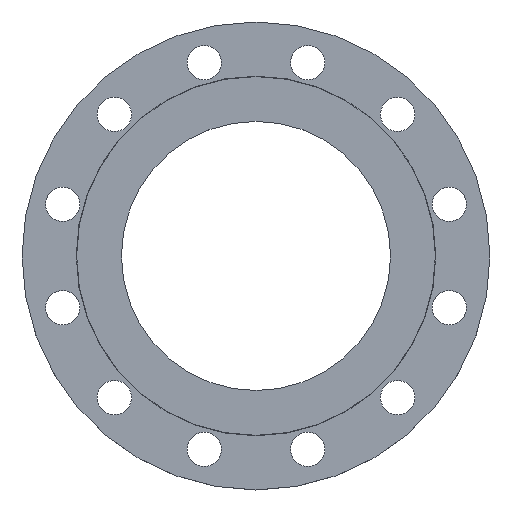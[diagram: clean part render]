
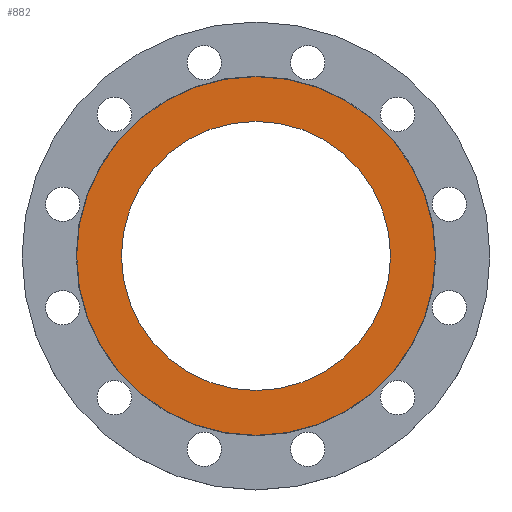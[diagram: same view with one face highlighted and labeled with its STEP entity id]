
A CAD part, top view. The second image highlights one B-rep face of the part: STEP entity #882.
In plain terms, the highlighted planar face has unit normal (0, 0, 1).
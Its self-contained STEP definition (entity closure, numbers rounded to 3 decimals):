
#1 = CARTESIAN_POINT ( 'NONE',  ( 0., 0., 0. ) ) ;
#2 = DIRECTION ( 'NONE',  ( 0., 0., -1. ) ) ;
#5 = DIRECTION ( 'NONE',  ( -1., 0., 0. ) ) ;
#49 = CARTESIAN_POINT ( 'NONE',  ( 172.5, 0., 0. ) ) ;
#75 = DIRECTION ( 'NONE',  ( 1., 0., 0. ) ) ;
#78 = DIRECTION ( 'NONE',  ( 0., 0., 1. ) ) ;
#79 = CARTESIAN_POINT ( 'NONE',  ( 0., 0., 0. ) ) ;
#126 = CARTESIAN_POINT ( 'NONE',  ( 129.4, 0., 0. ) ) ;
#159 = EDGE_CURVE ( 'NONE', #807, #1057, #635, .T. ) ;
#342 = AXIS2_PLACEMENT_3D ( 'NONE', #361, #360, #358 ) ;
#358 = DIRECTION ( 'NONE',  ( 1., 0., 0. ) ) ;
#360 = DIRECTION ( 'NONE',  ( 0., 0., 1. ) ) ;
#361 = CARTESIAN_POINT ( 'NONE',  ( 0., 0., 0. ) ) ;
#364 = PLANE ( 'NONE',  #342 ) ;
#365 = FACE_OUTER_BOUND ( 'NONE', #1214, .T. ) ;
#368 = FACE_BOUND ( 'NONE', #855, .T. ) ;
#434 = CARTESIAN_POINT ( 'NONE',  ( -129.4, 0., 0. ) ) ;
#461 = DIRECTION ( 'NONE',  ( -1., 0., 0. ) ) ;
#463 = DIRECTION ( 'NONE',  ( 0., 0., -1. ) ) ;
#464 = CARTESIAN_POINT ( 'NONE',  ( 0., 0., 0. ) ) ;
#479 = AXIS2_PLACEMENT_3D ( 'NONE', #1, #2, #5 ) ;
#488 = CIRCLE ( 'NONE', #479, 172.5 ) ;
#629 = DIRECTION ( 'NONE',  ( 0., 0., 1. ) ) ;
#635 = CIRCLE ( 'NONE', #637, 129.4 ) ;
#637 = AXIS2_PLACEMENT_3D ( 'NONE', #649, #629, #708 ) ;
#641 = CIRCLE ( 'NONE', #646, 172.5 ) ;
#646 = AXIS2_PLACEMENT_3D ( 'NONE', #464, #463, #461 ) ;
#649 = CARTESIAN_POINT ( 'NONE',  ( 0., 0., 0. ) ) ;
#708 = DIRECTION ( 'NONE',  ( 1., 0., 0. ) ) ;
#716 = CARTESIAN_POINT ( 'NONE',  ( -172.5, 0., 0. ) ) ;
#773 = EDGE_CURVE ( 'NONE', #1162, #1233, #641, .T. ) ;
#807 = VERTEX_POINT ( 'NONE', #434 ) ;
#855 = EDGE_LOOP ( 'NONE', ( #1127, #1128 ) ) ;
#882 = ADVANCED_FACE ( 'NONE', ( #368, #365 ), #364, .T. ) ;
#924 = CIRCLE ( 'NONE', #930, 129.4 ) ;
#930 = AXIS2_PLACEMENT_3D ( 'NONE', #79, #78, #75 ) ;
#1057 = VERTEX_POINT ( 'NONE', #126 ) ;
#1115 = EDGE_CURVE ( 'NONE', #1057, #807, #924, .T. ) ;
#1127 = ORIENTED_EDGE ( 'NONE', *, *, #1115, .F. ) ;
#1128 = ORIENTED_EDGE ( 'NONE', *, *, #159, .F. ) ;
#1129 = ORIENTED_EDGE ( 'NONE', *, *, #1208, .F. ) ;
#1130 = ORIENTED_EDGE ( 'NONE', *, *, #773, .F. ) ;
#1162 = VERTEX_POINT ( 'NONE', #49 ) ;
#1208 = EDGE_CURVE ( 'NONE', #1233, #1162, #488, .T. ) ;
#1214 = EDGE_LOOP ( 'NONE', ( #1129, #1130 ) ) ;
#1233 = VERTEX_POINT ( 'NONE', #716 ) ;
